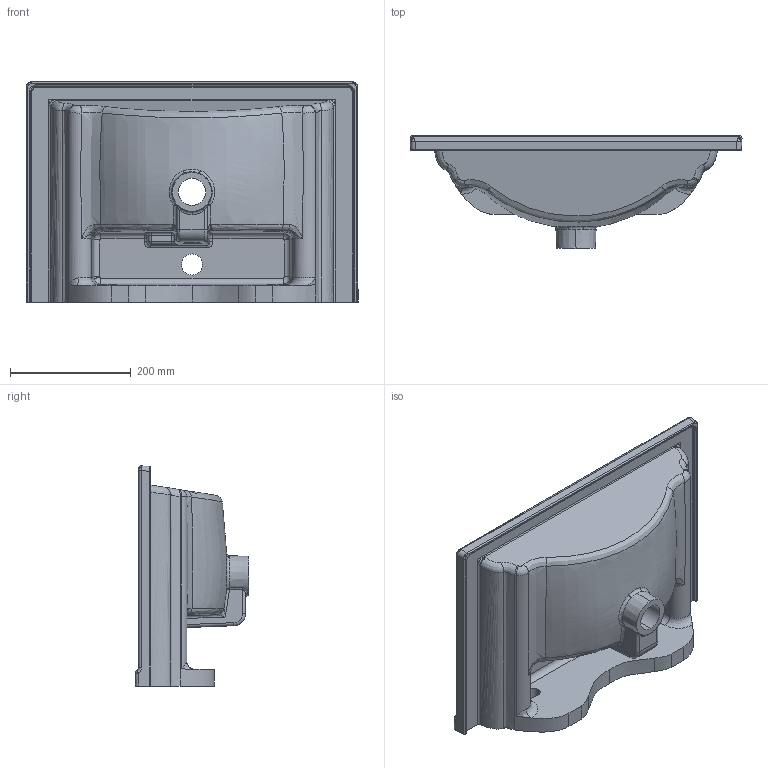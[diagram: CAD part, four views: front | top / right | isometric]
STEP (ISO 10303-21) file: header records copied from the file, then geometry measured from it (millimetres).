
FILE_DESCRIPTION (( 'STEP AP203' ), '1' );
FILE_NAME ('SU055 Model.STEP', '2022-04-06T08:21:26', ( '' ), ( '' ), 'SwSTEP 2.0', 'SolidWorks 2021', '' );
FILE_SCHEMA (( 'CONFIG_CONTROL_DESIGN' ));
Length unit declared in the file: millimetre
Products named in the file (1): SU055 Model
Bounding box: 550 x 187.44 x 364.73 mm (x, y, z)
Volume: 6613212.2 mm3; surface area: 719602.1 mm2
Topology: 2 solids, 2 shells, 575 faces, 1411 edges, 821 vertices
Faces by surface type: bspline 262, cylinder 156, plane 77, sphere 40, torus 36, cone 4
Entity records: 46555 total; most frequent: CARTESIAN_POINT 35117, ORIENTED_EDGE 2750, DIRECTION 1863, EDGE_CURVE 1375, VERTEX_POINT 809, AXIS2_PLACEMENT_3D 728, EDGE_LOOP 590, ADVANCED_FACE 575
